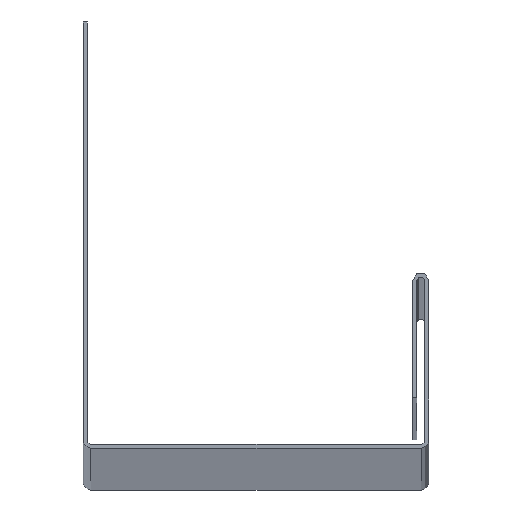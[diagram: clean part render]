
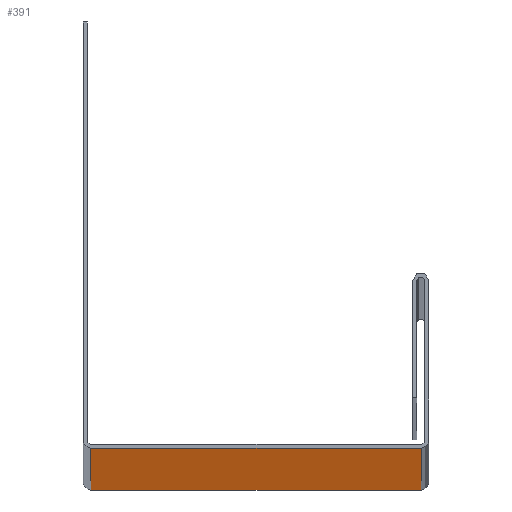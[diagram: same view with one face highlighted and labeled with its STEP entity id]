
A CAD part, top view. The second image highlights one B-rep face of the part: STEP entity #391.
In plain terms, the highlighted planar face has unit normal (0, -1, 0).
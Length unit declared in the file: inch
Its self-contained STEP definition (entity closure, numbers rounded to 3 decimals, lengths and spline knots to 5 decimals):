
#10 = LINE ( 'NONE', #645, #28 ) ;
#13 = EDGE_LOOP ( 'NONE', ( #367, #77, #74, #513 ) ) ;
#28 = VECTOR ( 'NONE', #242, 39.37008 ) ;
#45 = EDGE_CURVE ( 'NONE', #550, #106, #141, .T. ) ;
#74 = ORIENTED_EDGE ( 'NONE', *, *, #186, .F. ) ;
#77 = ORIENTED_EDGE ( 'NONE', *, *, #45, .F. ) ;
#85 = LINE ( 'NONE', #126, #520 ) ;
#95 = VECTOR ( 'NONE', #601, 39.37008 ) ;
#106 = VERTEX_POINT ( 'NONE', #247 ) ;
#117 = DIRECTION ( 'NONE',  ( 1., 0., 0. ) ) ;
#126 = CARTESIAN_POINT ( 'NONE',  ( 0.03937, 0., 120. ) ) ;
#134 = AXIS2_PLACEMENT_3D ( 'NONE', #615, #250, #722 ) ;
#141 = LINE ( 'NONE', #293, #470 ) ;
#186 = EDGE_CURVE ( 'NONE', #314, #550, #85, .T. ) ;
#242 = DIRECTION ( 'NONE',  ( 0., 0., -1. ) ) ;
#247 = CARTESIAN_POINT ( 'NONE',  ( 1.68594, 0., 0. ) ) ;
#248 = LINE ( 'NONE', #612, #95 ) ;
#250 = DIRECTION ( 'NONE',  ( 0., 1., 0. ) ) ;
#286 = DIRECTION ( 'NONE',  ( 0., 0., -1. ) ) ;
#293 = CARTESIAN_POINT ( 'NONE',  ( 1.68594, 0., 120. ) ) ;
#314 = VERTEX_POINT ( 'NONE', #648 ) ;
#337 = EDGE_CURVE ( 'NONE', #532, #106, #248, .T. ) ;
#347 = EDGE_CURVE ( 'NONE', #314, #532, #10, .T. ) ;
#367 = ORIENTED_EDGE ( 'NONE', *, *, #337, .T. ) ;
#389 = CARTESIAN_POINT ( 'NONE',  ( 1.68594, 0., 120. ) ) ;
#391 = ADVANCED_FACE ( 'NONE', ( #465 ), #515, .F. ) ;
#465 = FACE_OUTER_BOUND ( 'NONE', #13, .T. ) ;
#470 = VECTOR ( 'NONE', #286, 39.37008 ) ;
#513 = ORIENTED_EDGE ( 'NONE', *, *, #347, .T. ) ;
#515 = PLANE ( 'NONE',  #134 ) ;
#520 = VECTOR ( 'NONE', #117, 39.37008 ) ;
#532 = VERTEX_POINT ( 'NONE', #704 ) ;
#550 = VERTEX_POINT ( 'NONE', #389 ) ;
#601 = DIRECTION ( 'NONE',  ( 1., 0., 0. ) ) ;
#612 = CARTESIAN_POINT ( 'NONE',  ( 0.03937, 0., 0. ) ) ;
#615 = CARTESIAN_POINT ( 'NONE',  ( 0.03937, 0., 120. ) ) ;
#645 = CARTESIAN_POINT ( 'NONE',  ( 0.03937, 0., 120. ) ) ;
#648 = CARTESIAN_POINT ( 'NONE',  ( 0.03937, 0., 120. ) ) ;
#704 = CARTESIAN_POINT ( 'NONE',  ( 0.03937, 0., 0. ) ) ;
#722 = DIRECTION ( 'NONE',  ( 0., 0., 1. ) ) ;
